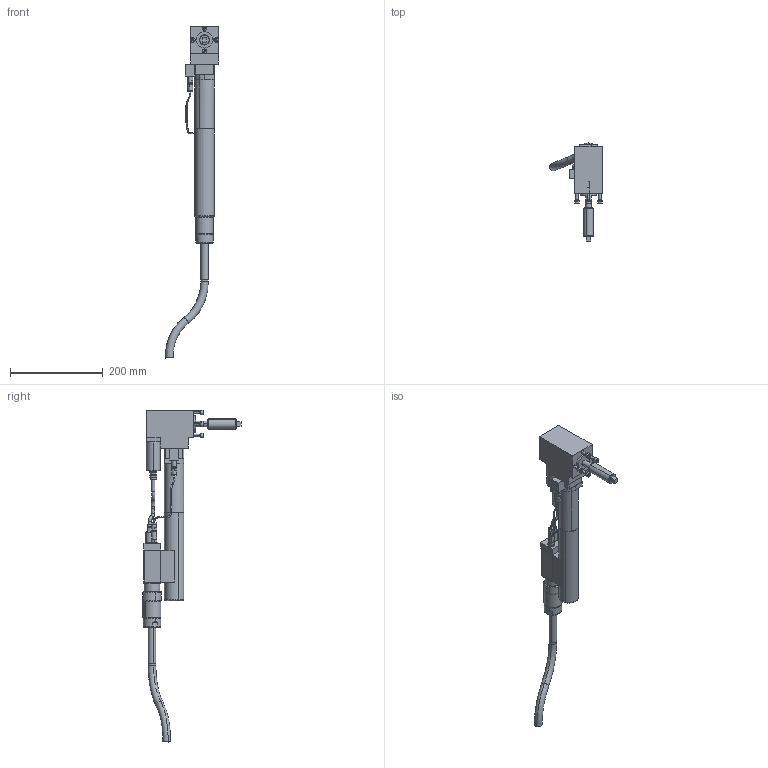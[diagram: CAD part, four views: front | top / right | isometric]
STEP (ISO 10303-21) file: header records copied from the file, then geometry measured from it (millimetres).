
FILE_DESCRIPTION(('CATIA V5 STEP Exchange'),'2;1');
FILE_NAME('O:\3D-Schrauber\Einschauschrauber Groesse1 CATIA V4+V5\7920284_ECR105_W1_AWD125-50_AllCATPart.stp','2008-11-06T10:36:38+00:00',('none'),('none'),'CATIA Version 5 Release 16 (IN-10)','CATIA V5 STEP AP203','none');
FILE_SCHEMA(('CONFIG_CONTROL_DESIGN'));
Length unit declared in the file: millimetre
Products named in the file (1): 7920284_ECR105_W1_AWD125-50_AllCATPart
Bounding box: 113.82 x 212.23 x 716.18 mm (x, y, z)
Volume: 1390418.1 mm3; surface area: 183484.1 mm2
Topology: 22 solids, 22 shells, 511 faces, 1152 edges, 722 vertices
Faces by surface type: plane 229, cylinder 174, cone 56, torus 48, bspline 4
Entity records: 13660 total; most frequent: CARTESIAN_POINT 3011, ORIENTED_EDGE 2284, DIRECTION 1828, EDGE_CURVE 1142, AXIS2_PLACEMENT_3D 901, VERTEX_POINT 721, VECTOR 559, LINE 559
